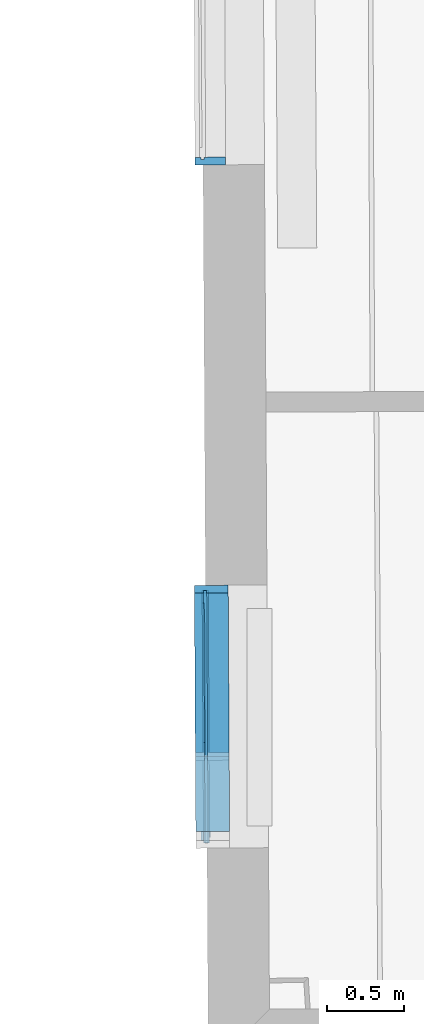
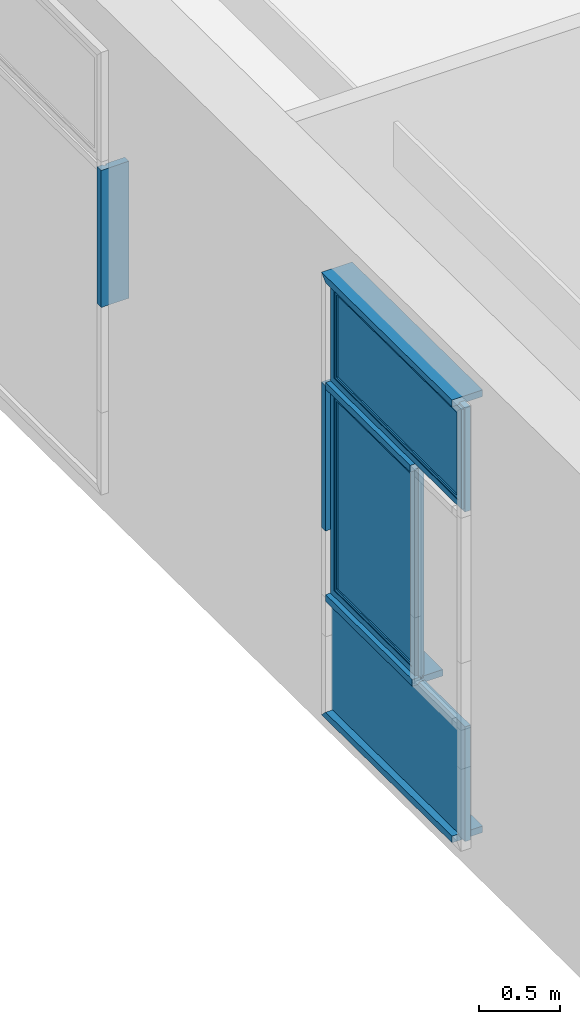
# One storey, part 119 of 196: 11 building element parts, 2 elements without a shape of their own.
"""IFC2X3 building model written with IfcOpenShell, lengths in metres."""

from ifc_helpers import new_model, entity, si_unit, converted_unit, derived_unit, money_unit, direction, frame, origin_with_axes, place, context, subcontext, project, spatial, faceted_brep, material, type_object, element, aggregate, save


model = new_model("IFC2X3")

# Units and contexts
model_context = context("Model", 3, precision=1e-05, world=origin_with_axes(), true_north=direction((0.0, 1.0)))
body_context = subcontext(model_context, "Body", "Model", "MODEL_VIEW")
ifc_project = project(units=[si_unit("LENGTHUNIT", "METRE"), si_unit("AREAUNIT", "SQUARE_METRE"), si_unit("VOLUMEUNIT", "CUBIC_METRE"), converted_unit("PLANEANGLEUNIT", "DEGREE", entity("IfcPlaneAngleMeasure", 0.0174532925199), si_unit("PLANEANGLEUNIT", "RADIAN"), dimensions=[0, 0, 0, 0, 0, 0, 0]), money_unit("EUR"), converted_unit("TIMEUNIT", "Year", entity("IfcTimeMeasure", 31556926.0), si_unit("TIMEUNIT", "SECOND"), dimensions=[0, 0, 1, 0, 0, 0, 0]), si_unit("MASSUNIT", "GRAM", prefix="KILO"), si_unit("THERMODYNAMICTEMPERATUREUNIT", "DEGREE_CELSIUS"), si_unit("LUMINOUSINTENSITYUNIT", "LUMEN"), si_unit("ENERGYUNIT", "JOULE", prefix="MEGA"), derived_unit("THERMALCONDUCTANCEUNIT", [(si_unit("POWERUNIT", "WATT"), 1), (si_unit("LENGTHUNIT", "METRE"), -1), (si_unit("THERMODYNAMICTEMPERATUREUNIT", "KELVIN"), -1)]), derived_unit("SPECIFICHEATCAPACITYUNIT", [(si_unit("ENERGYUNIT", "JOULE"), 1), (si_unit("MASSUNIT", "GRAM", prefix="KILO"), -1), (si_unit("THERMODYNAMICTEMPERATUREUNIT", "KELVIN"), -1)]), derived_unit("MASSDENSITYUNIT", [(si_unit("MASSUNIT", "GRAM", prefix="KILO"), 1), (si_unit("VOLUMEUNIT", "CUBIC_METRE"), -1)])], contexts=[model_context])

# Site, building, storey
site_placement = place(None, origin_with_axes())
site = spatial("IfcSite", under=ifc_project, at=site_placement, Name="Gelände", CompositionType="ELEMENT")
building_placement = place(site_placement, origin_with_axes())
building = spatial("IfcBuilding", under=site, at=building_placement, Name="Gebäude", CompositionType="ELEMENT")
storey_placement = place(building_placement, frame((0.0, 0.0, -3.0), z_axis=(0.0, 0.0, 1.0), x_axis=(1.0, 0.0, 0.0)))
storey = spatial("IfcBuildingStorey", under=building, at=storey_placement, Name="KELLERGESCHOSS", CompositionType="ELEMENT", Elevation=-3.0)

# Proxy, building element parts
building_element_proxy_type = type_object("IfcBuildingElementProxyType", Name="Fassadentyp", PredefinedType="NOTDEFINED")
proxy_1_placement = place(storey_placement, frame((-34.829315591, 32.8962799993, 0.42102562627), z_axis=(0.0, 0.0, 1.0), x_axis=(1.0, 0.0, 0.0)))
proxy_1 = element("IfcBuildingElementProxy", 1, at=proxy_1_placement, inside=storey, type_object=building_element_proxy_type, Name="Fassade-002")
ifc_material_1 = material(Name="53_Metall, Aluminium")
building_element_part_1_placement = place(proxy_1_placement, origin_with_axes())
building_element_part_1 = element("IfcBuildingElementPart", 2, at=building_element_part_1_placement, material=ifc_material_1, Name="53_Metall, Aluminium", context=body_context, shape_type="Brep", body=[
    faceted_brep([(-0.0360597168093, 1.05607044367, 2.54499998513), (-0.0268131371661, -0.555528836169, 2.54499998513), (-0.0318130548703, -0.555557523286, 2.54499998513), (-0.0410596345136, 1.05604175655, 2.54499998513), (-0.0358015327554, 1.01107118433, 2.58999998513), (-0.02707132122, -0.51052957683, 2.58999998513), (-0.0320712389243, -0.510558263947, 2.58999998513), (-0.0408014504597, 1.01104249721, 2.58999998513)], [[[0, 1, 2, 3]], [[0, 4, 5, 1]], [[1, 5, 6, 2]], [[3, 2, 6, 7]], [[4, 0, 3, 7]], [[5, 4, 7, 6]]]),
    faceted_brep([(-0.0268131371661, -0.555528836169, 2.54499998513), (-0.0268131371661, -0.555528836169, 3.29999992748), (-0.0318130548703, -0.555557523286, 3.29999992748), (-0.0318130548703, -0.555557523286, 2.54499998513), (-0.02707132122, -0.51052957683, 2.58999998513), (-0.02707132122, -0.51052957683, 3.25499992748), (-0.0320712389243, -0.510558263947, 3.25499992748), (-0.0320712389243, -0.510558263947, 2.58999998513)], [[[0, 1, 2, 3]], [[0, 4, 5, 1]], [[1, 5, 6, 2]], [[3, 2, 6, 7]], [[4, 0, 3, 7]], [[5, 4, 7, 6]]]),
    faceted_brep([(-0.0360597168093, 1.05607044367, 3.29999992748), (-0.0358015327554, 1.01107118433, 3.25499992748), (-0.0408014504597, 1.01104249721, 3.25499992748), (-0.0410596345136, 1.05604175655, 3.29999992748), (-0.0268131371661, -0.555528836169, 3.29999992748), (-0.02707132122, -0.51052957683, 3.25499992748), (-0.0320712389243, -0.510558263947, 3.25499992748), (-0.0318130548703, -0.555557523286, 3.29999992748)], [[[0, 1, 2, 3]], [[0, 4, 5, 1]], [[1, 5, 6, 2]], [[3, 2, 6, 7]], [[4, 0, 3, 7]], [[5, 4, 7, 6]]]),
    faceted_brep([(-0.0360597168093, 1.05607044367, 2.54499998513), (-0.0358015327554, 1.01107118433, 2.58999998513), (-0.0408014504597, 1.01104249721, 2.58999998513), (-0.0410596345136, 1.05604175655, 2.54499998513), (-0.0360597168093, 1.05607044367, 3.29999992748), (-0.0358015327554, 1.01107118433, 3.25499992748), (-0.0408014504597, 1.01104249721, 3.25499992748), (-0.0410596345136, 1.05604175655, 3.29999992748)], [[[0, 1, 2, 3]], [[0, 4, 5, 1]], [[1, 5, 6, 2]], [[3, 2, 6, 7]], [[4, 0, 3, 7]], [[5, 4, 7, 6]]]),
    faceted_brep([(0.0139394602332, 1.05635731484, 2.54499998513), (0.0231860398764, -0.555241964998, 2.54499998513), (-0.0268131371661, -0.555528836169, 2.54499998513), (-0.0360597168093, 1.05607044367, 2.54499998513), (0.0140542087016, 1.03635764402, 2.56499998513), (0.023071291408, -0.535242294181, 2.56499998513), (-0.0269278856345, -0.535529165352, 2.56499998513), (-0.0359449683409, 1.03607077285, 2.56499998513)], [[[0, 1, 2, 3]], [[0, 4, 5, 1]], [[1, 5, 6, 2]], [[3, 2, 6, 7]], [[4, 0, 3, 7]], [[5, 4, 7, 6]]]),
    faceted_brep([(0.0231860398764, -0.555241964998, 2.54499998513), (0.0231860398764, -0.555241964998, 3.29999992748), (-0.0268131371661, -0.555528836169, 3.29999992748), (-0.0268131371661, -0.555528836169, 2.54499998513), (0.023071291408, -0.535242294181, 2.56499998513), (0.023071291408, -0.535242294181, 3.27999992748), (-0.0269278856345, -0.535529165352, 3.27999992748), (-0.0269278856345, -0.535529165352, 2.56499998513)], [[[0, 1, 2, 3]], [[0, 4, 5, 1]], [[1, 5, 6, 2]], [[3, 2, 6, 7]], [[4, 0, 3, 7]], [[5, 4, 7, 6]]]),
    faceted_brep([(0.0139394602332, 1.05635731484, 3.29999992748), (0.0140542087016, 1.03635764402, 3.27999992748), (-0.0359449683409, 1.03607077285, 3.27999992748), (-0.0360597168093, 1.05607044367, 3.29999992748), (0.0231860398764, -0.555241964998, 3.29999992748), (0.023071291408, -0.535242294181, 3.27999992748), (-0.0269278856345, -0.535529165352, 3.27999992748), (-0.0268131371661, -0.555528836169, 3.29999992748)], [[[0, 1, 2, 3]], [[0, 4, 5, 1]], [[1, 5, 6, 2]], [[3, 2, 6, 7]], [[4, 0, 3, 7]], [[5, 4, 7, 6]]]),
    faceted_brep([(0.0139394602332, 1.05635731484, 2.54499998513), (0.0140542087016, 1.03635764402, 2.56499998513), (-0.0359449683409, 1.03607077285, 2.56499998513), (-0.0360597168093, 1.05607044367, 2.54499998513), (0.0139394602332, 1.05635731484, 3.29999992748), (0.0140542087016, 1.03635764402, 3.27999992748), (-0.0359449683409, 1.03607077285, 3.27999992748), (-0.0360597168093, 1.05607044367, 3.29999992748)], [[[0, 1, 2, 3]], [[0, 4, 5, 1]], [[1, 5, 6, 2]], [[3, 2, 6, 7]], [[4, 0, 3, 7]], [[5, 4, 7, 6]]]),
    faceted_brep([(0.0138533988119, 1.07135708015, 2.52999997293), (0.0232721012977, -0.570241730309, 2.52999997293), (-0.0167272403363, -0.570471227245, 2.52999997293), (-0.0261459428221, 1.07112758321, 2.52999997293), (0.0139394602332, 1.05635731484, 2.54499998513), (0.0231860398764, -0.555241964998, 2.54499998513), (-0.0168133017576, -0.555471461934, 2.54499998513), (-0.0260598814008, 1.0561278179, 2.54499998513)], [[[0, 1, 2, 3]], [[0, 4, 5, 1]], [[1, 5, 6, 2]], [[3, 2, 6, 7]], [[4, 0, 3, 7]], [[5, 4, 7, 6]]]),
    faceted_brep([(0.0232721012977, -0.570241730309, 2.52999997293), (0.0232721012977, -0.570241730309, 3.31499991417), (-0.0167272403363, -0.570471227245, 3.31499991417), (-0.0167272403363, -0.570471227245, 2.52999997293), (0.0231860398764, -0.555241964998, 2.54499998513), (0.0231860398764, -0.555241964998, 3.29999992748), (-0.0168133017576, -0.555471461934, 3.29999992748), (-0.0168133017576, -0.555471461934, 2.54499998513)], [[[0, 1, 2, 3]], [[0, 4, 5, 1]], [[1, 5, 6, 2]], [[3, 2, 6, 7]], [[4, 0, 3, 7]], [[5, 4, 7, 6]]]),
    faceted_brep([(0.0232721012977, -0.570241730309, 3.31499991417), (0.0138533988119, 1.07135708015, 3.31499991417), (-0.0261459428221, 1.07112758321, 3.31499991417), (-0.0167272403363, -0.570471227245, 3.31499991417), (0.0231860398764, -0.555241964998, 3.29999992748), (0.0139394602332, 1.05635731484, 3.29999992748), (-0.0260598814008, 1.0561278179, 3.29999992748), (-0.0168133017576, -0.555471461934, 3.29999992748)], [[[0, 1, 2, 3]], [[0, 4, 5, 1]], [[1, 5, 6, 2]], [[3, 2, 6, 7]], [[4, 0, 3, 7]], [[5, 4, 7, 6]]]),
    faceted_brep([(0.0138533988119, 1.07135708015, 3.31499991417), (0.0138533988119, 1.07135708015, 2.52999997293), (-0.0261459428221, 1.07112758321, 2.52999997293), (-0.0261459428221, 1.07112758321, 3.31499991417), (0.0139394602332, 1.05635731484, 3.29999992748), (0.0139394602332, 1.05635731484, 2.54499998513), (-0.0260598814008, 1.0561278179, 2.54499998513), (-0.0260598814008, 1.0561278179, 3.29999992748)], [[[0, 1, 2, 3]], [[0, 4, 5, 1]], [[1, 5, 6, 2]], [[3, 2, 6, 7]], [[4, 0, 3, 7]], [[5, 4, 7, 6]]]),
    faceted_brep([(-0.035686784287, 0.991071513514, 2.60999998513), (0.0193123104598, 0.991387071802, 2.60999998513), (0.0193123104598, 0.991387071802, 3.23499992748), (-0.035686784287, 0.991071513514, 3.23499992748), (-0.0359449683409, 1.03607077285, 2.56499998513), (0.0190541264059, 1.03638633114, 2.56499998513), (0.0190541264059, 1.03638633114, 3.27999992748), (-0.0359449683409, 1.03607077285, 3.27999992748)], [[[0, 1, 2, 3]], [[4, 5, 1, 0]], [[1, 5, 6, 2]], [[3, 2, 6, 7]], [[0, 3, 7, 4]], [[7, 6, 5, 4]]]),
    faceted_brep([(-0.0269278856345, -0.535529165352, 2.56499998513), (0.0280712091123, -0.535213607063, 2.56499998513), (0.0280712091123, -0.535213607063, 3.27999992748), (-0.0269278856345, -0.535529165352, 3.27999992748), (-0.0271860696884, -0.490529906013, 2.60999998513), (0.0278130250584, -0.490214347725, 2.60999998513), (0.0278130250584, -0.490214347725, 3.23499992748), (-0.0271860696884, -0.490529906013, 3.23499992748)], [[[0, 1, 2, 3]], [[4, 5, 1, 0]], [[1, 5, 6, 2]], [[3, 2, 6, 7]], [[0, 3, 7, 4]], [[7, 6, 5, 4]]]),
    faceted_brep([(-0.0269278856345, -0.535529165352, 2.56499998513), (0.0280712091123, -0.535213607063, 2.56499998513), (0.0278130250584, -0.490214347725, 2.60999998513), (-0.0271860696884, -0.490529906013, 2.60999998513), (-0.0359449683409, 1.03607077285, 2.56499998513), (0.0190541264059, 1.03638633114, 2.56499998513), (0.0193123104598, 0.991387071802, 2.60999998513), (-0.035686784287, 0.991071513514, 2.60999998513)], [[[0, 1, 2, 3]], [[4, 5, 1, 0]], [[1, 5, 6, 2]], [[3, 2, 6, 7]], [[0, 3, 7, 4]], [[7, 6, 5, 4]]]),
    faceted_brep([(-0.0359449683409, 1.03607077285, 3.27999992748), (0.0190541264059, 1.03638633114, 3.27999992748), (0.0193123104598, 0.991387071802, 3.23499992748), (-0.035686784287, 0.991071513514, 3.23499992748), (-0.0269278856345, -0.535529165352, 3.27999992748), (0.0280712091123, -0.535213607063, 3.27999992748), (0.0278130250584, -0.490214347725, 3.23499992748), (-0.0271860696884, -0.490529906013, 3.23499992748)], [[[0, 1, 2, 3]], [[4, 5, 1, 0]], [[1, 5, 6, 2]], [[3, 2, 6, 7]], [[0, 3, 7, 4]], [[7, 6, 5, 4]]]),
])
ifc_material_2 = material(Name="45_Glas, Normalglas")
building_element_part_2_placement = place(proxy_1_placement, origin_with_axes())
building_element_part_2 = element("IfcBuildingElementPart", 3, at=building_element_part_2_placement, material=ifc_material_2, Name="45_Glas, Normalglas", context=body_context, shape_type="Brep", body=[
    faceted_brep([(-0.0256869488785, 0.991128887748, 2.60999998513), (-0.00968721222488, 0.991220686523, 2.60999998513), (-0.0011864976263, -0.490380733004, 2.60999998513), (-0.0171862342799, -0.490472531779, 2.60999998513), (-0.0256869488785, 0.991128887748, 3.23499992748), (-0.00968721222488, 0.991220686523, 3.23499992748), (-0.0011864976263, -0.490380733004, 3.23499992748), (-0.0171862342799, -0.490472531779, 3.23499992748)], [[[0, 1, 2, 3]], [[4, 5, 1, 0]], [[1, 5, 6, 2]], [[3, 2, 6, 7]], [[0, 3, 7, 4]], [[7, 6, 5, 4]]]),
])
building_element_part_3_placement = place(proxy_1_placement, origin_with_axes())
building_element_part_3 = element("IfcBuildingElementPart", 4, at=building_element_part_3_placement, material=ifc_material_2, Name="45_Glas, Normalglas", context=body_context, shape_type="Brep", body=[
    faceted_brep([(0.0232721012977, -0.570241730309, 0.904643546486), (0.0228500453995, -0.496681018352, 0.904643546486), (-0.0171492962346, -0.496910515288, 0.904643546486), (-0.0167272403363, -0.570471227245, 0.904643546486), (0.0232721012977, -0.570241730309, 0.619999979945), (0.0232721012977, -0.570241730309, 0.0349999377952), (0.0228500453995, -0.496681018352, 0.0349999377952), (0.0138533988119, 1.07135708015, 0.0349999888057), (0.0138533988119, 1.07135708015, 0.619999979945), (0.0138533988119, 1.07135708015, 0.904643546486), (0.0200466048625, -0.00806545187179, 0.904643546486), (-0.0199527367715, -0.0082949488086, 0.904643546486), (-0.0261459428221, 1.07112758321, 0.904643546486), (-0.0261459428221, 1.07112758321, 0.619999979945), (-0.0261459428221, 1.07112758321, 0.0349999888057), (-0.0171492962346, -0.496910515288, 0.0349999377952), (-0.0167272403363, -0.570471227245, 0.0349999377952), (-0.0167272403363, -0.570471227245, 0.619999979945)], [[[0, 1, 2, 3]], [[0, 4, 5, 6, 7, 8, 9, 10, 1]], [[1, 10, 11, 2]], [[3, 2, 11, 12, 13, 14, 15, 16, 17]], [[4, 0, 3, 17]], [[5, 4, 17, 16]], [[6, 5, 16, 15]], [[7, 6, 15, 14]], [[8, 7, 14, 13]], [[9, 8, 13, 12]], [[10, 9, 12, 11]]]),
])
building_element_part_4_placement = place(proxy_1_placement, origin_with_axes())
building_element_part_4 = element("IfcBuildingElementPart", 5, at=building_element_part_4_placement, material=ifc_material_1, Name="53_Metall, Aluminium", context=body_context, shape_type="Brep", body=[
    faceted_brep([(-0.0360597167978, 1.05607044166, 0.939643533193), (-0.0300960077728, 0.0166472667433, 0.939643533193), (-0.035095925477, 0.0166185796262, 0.939643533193), (-0.0410596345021, 1.05604175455, 0.939643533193), (-0.0358015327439, 1.01107118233, 0.984643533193), (-0.0303541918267, 0.0616465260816, 0.984643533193), (-0.0353541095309, 0.0616178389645, 0.984643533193), (-0.0408014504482, 1.01104249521, 0.984643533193)], [[[0, 1, 2, 3]], [[0, 4, 5, 1]], [[1, 5, 6, 2]], [[3, 2, 6, 7]], [[4, 0, 3, 7]], [[5, 4, 7, 6]]]),
    faceted_brep([(-0.0300960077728, 0.0166472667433, 0.939643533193), (-0.0300960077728, 0.0166472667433, 2.49499998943), (-0.035095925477, 0.0166185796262, 2.49499998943), (-0.035095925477, 0.0166185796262, 0.939643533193), (-0.0303541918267, 0.0616465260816, 0.984643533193), (-0.0303541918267, 0.0616465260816, 2.44999998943), (-0.0353541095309, 0.0616178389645, 2.44999998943), (-0.0353541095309, 0.0616178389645, 0.984643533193)], [[[0, 1, 2, 3]], [[0, 4, 5, 1]], [[1, 5, 6, 2]], [[3, 2, 6, 7]], [[4, 0, 3, 7]], [[5, 4, 7, 6]]]),
    faceted_brep([(-0.0360597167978, 1.05607044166, 2.49499998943), (-0.0358015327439, 1.01107118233, 2.44999998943), (-0.0408014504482, 1.01104249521, 2.44999998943), (-0.0410596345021, 1.05604175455, 2.49499998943), (-0.0300960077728, 0.0166472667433, 2.49499998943), (-0.0303541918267, 0.0616465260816, 2.44999998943), (-0.0353541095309, 0.0616178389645, 2.44999998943), (-0.035095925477, 0.0166185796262, 2.49499998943)], [[[0, 1, 2, 3]], [[0, 4, 5, 1]], [[1, 5, 6, 2]], [[3, 2, 6, 7]], [[4, 0, 3, 7]], [[5, 4, 7, 6]]]),
    faceted_brep([(-0.0360597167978, 1.05607044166, 0.939643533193), (-0.0358015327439, 1.01107118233, 0.984643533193), (-0.0408014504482, 1.01104249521, 0.984643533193), (-0.0410596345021, 1.05604175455, 0.939643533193), (-0.0360597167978, 1.05607044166, 2.49499998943), (-0.0358015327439, 1.01107118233, 2.44999998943), (-0.0408014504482, 1.01104249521, 2.44999998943), (-0.0410596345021, 1.05604175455, 2.49499998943)], [[[0, 1, 2, 3]], [[0, 4, 5, 1]], [[1, 5, 6, 2]], [[3, 2, 6, 7]], [[4, 0, 3, 7]], [[5, 4, 7, 6]]]),
    faceted_brep([(0.0139394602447, 1.05635731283, 0.939643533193), (0.0199031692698, 0.0169341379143, 0.939643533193), (-0.0300960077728, 0.0166472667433, 0.939643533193), (-0.0360597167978, 1.05607044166, 0.939643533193), (0.0140542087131, 1.03635764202, 0.959643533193), (0.0197884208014, 0.0369338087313, 0.959643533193), (-0.0302107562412, 0.0366469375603, 0.959643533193), (-0.0359449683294, 1.03607077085, 0.959643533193)], [[[0, 1, 2, 3]], [[0, 4, 5, 1]], [[1, 5, 6, 2]], [[3, 2, 6, 7]], [[4, 0, 3, 7]], [[5, 4, 7, 6]]]),
    faceted_brep([(0.0199031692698, 0.0169341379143, 0.939643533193), (0.0199031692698, 0.0169341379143, 2.49499998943), (-0.0300960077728, 0.0166472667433, 2.49499998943), (-0.0300960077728, 0.0166472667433, 0.939643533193), (0.0197884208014, 0.0369338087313, 0.959643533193), (0.0197884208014, 0.0369338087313, 2.47499998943), (-0.0302107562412, 0.0366469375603, 2.47499998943), (-0.0302107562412, 0.0366469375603, 0.959643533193)], [[[0, 1, 2, 3]], [[0, 4, 5, 1]], [[1, 5, 6, 2]], [[3, 2, 6, 7]], [[4, 0, 3, 7]], [[5, 4, 7, 6]]]),
    faceted_brep([(0.0139394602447, 1.05635731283, 2.49499998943), (0.0140542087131, 1.03635764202, 2.47499998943), (-0.0359449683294, 1.03607077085, 2.47499998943), (-0.0360597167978, 1.05607044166, 2.49499998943), (0.0199031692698, 0.0169341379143, 2.49499998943), (0.0197884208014, 0.0369338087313, 2.47499998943), (-0.0302107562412, 0.0366469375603, 2.47499998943), (-0.0300960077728, 0.0166472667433, 2.49499998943)], [[[0, 1, 2, 3]], [[0, 4, 5, 1]], [[1, 5, 6, 2]], [[3, 2, 6, 7]], [[4, 0, 3, 7]], [[5, 4, 7, 6]]]),
    faceted_brep([(0.0139394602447, 1.05635731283, 0.939643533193), (0.0140542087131, 1.03635764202, 0.959643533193), (-0.0359449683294, 1.03607077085, 0.959643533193), (-0.0360597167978, 1.05607044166, 0.939643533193), (0.0139394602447, 1.05635731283, 2.49499998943), (0.0140542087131, 1.03635764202, 2.47499998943), (-0.0359449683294, 1.03607077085, 2.47499998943), (-0.0360597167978, 1.05607044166, 2.49499998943)], [[[0, 1, 2, 3]], [[0, 4, 5, 1]], [[1, 5, 6, 2]], [[3, 2, 6, 7]], [[4, 0, 3, 7]], [[5, 4, 7, 6]]]),
    faceted_brep([(0.0138533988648, 1.07135707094, 0.924643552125), (0.0199892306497, 0.0019343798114, 0.924643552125), (-0.0200101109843, 0.00170488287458, 0.924643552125), (-0.0261459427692, 1.071127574, 0.924643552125), (0.0139394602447, 1.05635731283, 0.939643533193), (0.0199031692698, 0.0169341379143, 0.939643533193), (-0.0200961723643, 0.0167046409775, 0.939643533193), (-0.0260598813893, 1.0561278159, 0.939643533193)], [[[0, 1, 2, 3]], [[0, 4, 5, 1]], [[1, 5, 6, 2]], [[3, 2, 6, 7]], [[4, 0, 3, 7]], [[5, 4, 7, 6]]]),
    faceted_brep([(0.0199892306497, 0.0019343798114, 0.924643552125), (0.0199892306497, 0.0019343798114, 2.5099999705), (-0.0200101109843, 0.00170488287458, 2.5099999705), (-0.0200101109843, 0.00170488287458, 0.924643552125), (0.0199031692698, 0.0169341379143, 0.939643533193), (0.0199031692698, 0.0169341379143, 2.49499998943), (-0.0200961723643, 0.0167046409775, 2.49499998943), (-0.0200961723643, 0.0167046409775, 0.939643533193)], [[[0, 1, 2, 3]], [[0, 4, 5, 1]], [[1, 5, 6, 2]], [[3, 2, 6, 7]], [[4, 0, 3, 7]], [[5, 4, 7, 6]]]),
    faceted_brep([(0.0199892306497, 0.0019343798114, 2.5099999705), (0.0138533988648, 1.07135707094, 2.5099999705), (-0.0261459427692, 1.071127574, 2.5099999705), (-0.0200101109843, 0.00170488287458, 2.5099999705), (0.0199031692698, 0.0169341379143, 2.49499998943), (0.0139394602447, 1.05635731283, 2.49499998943), (-0.0260598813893, 1.0561278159, 2.49499998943), (-0.0200961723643, 0.0167046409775, 2.49499998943)], [[[0, 1, 2, 3]], [[0, 4, 5, 1]], [[1, 5, 6, 2]], [[3, 2, 6, 7]], [[4, 0, 3, 7]], [[5, 4, 7, 6]]]),
    faceted_brep([(0.0138533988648, 1.07135707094, 2.5099999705), (0.0138533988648, 1.07135707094, 0.924643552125), (-0.0261459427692, 1.071127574, 0.924643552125), (-0.0261459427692, 1.071127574, 2.5099999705), (0.0139394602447, 1.05635731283, 2.49499998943), (0.0139394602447, 1.05635731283, 0.939643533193), (-0.0260598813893, 1.0561278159, 0.939643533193), (-0.0260598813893, 1.0561278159, 2.49499998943)], [[[0, 1, 2, 3]], [[0, 4, 5, 1]], [[1, 5, 6, 2]], [[3, 2, 6, 7]], [[4, 0, 3, 7]], [[5, 4, 7, 6]]]),
    faceted_brep([(-0.0356867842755, 0.991071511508, 1.00464353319), (0.0193123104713, 0.991387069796, 1.00464353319), (0.0193123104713, 0.991387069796, 2.42999998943), (-0.0356867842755, 0.991071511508, 2.42999998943), (-0.0359449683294, 1.03607077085, 0.959643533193), (0.0190541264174, 1.03638632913, 0.959643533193), (0.0190541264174, 1.03638632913, 2.47499998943), (-0.0359449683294, 1.03607077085, 2.47499998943)], [[[0, 1, 2, 3]], [[4, 5, 1, 0]], [[1, 5, 6, 2]], [[3, 2, 6, 7]], [[0, 3, 7, 4]], [[7, 6, 5, 4]]]),
    faceted_brep([(-0.0302107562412, 0.0366469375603, 0.959643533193), (0.0247883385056, 0.0369624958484, 0.959643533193), (0.0247883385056, 0.0369624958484, 2.47499998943), (-0.0302107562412, 0.0366469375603, 2.47499998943), (-0.0304689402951, 0.0816461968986, 1.00464353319), (0.0245301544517, 0.0819617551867, 1.00464353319), (0.0245301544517, 0.0819617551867, 2.42999998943), (-0.0304689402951, 0.0816461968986, 2.42999998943)], [[[0, 1, 2, 3]], [[4, 5, 1, 0]], [[1, 5, 6, 2]], [[3, 2, 6, 7]], [[0, 3, 7, 4]], [[7, 6, 5, 4]]]),
    faceted_brep([(-0.0302107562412, 0.0366469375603, 0.959643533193), (0.0247883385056, 0.0369624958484, 0.959643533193), (0.0245301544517, 0.0819617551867, 1.00464353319), (-0.0304689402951, 0.0816461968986, 1.00464353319), (-0.0359449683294, 1.03607077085, 0.959643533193), (0.0190541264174, 1.03638632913, 0.959643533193), (0.0193123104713, 0.991387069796, 1.00464353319), (-0.0356867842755, 0.991071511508, 1.00464353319)], [[[0, 1, 2, 3]], [[4, 5, 1, 0]], [[1, 5, 6, 2]], [[3, 2, 6, 7]], [[0, 3, 7, 4]], [[7, 6, 5, 4]]]),
    faceted_brep([(-0.0359449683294, 1.03607077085, 2.47499998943), (0.0190541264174, 1.03638632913, 2.47499998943), (0.0193123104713, 0.991387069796, 2.42999998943), (-0.0356867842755, 0.991071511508, 2.42999998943), (-0.0302107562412, 0.0366469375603, 2.47499998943), (0.0247883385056, 0.0369624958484, 2.47499998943), (0.0245301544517, 0.0819617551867, 2.42999998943), (-0.0304689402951, 0.0816461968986, 2.42999998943)], [[[0, 1, 2, 3]], [[4, 5, 1, 0]], [[1, 5, 6, 2]], [[3, 2, 6, 7]], [[0, 3, 7, 4]], [[7, 6, 5, 4]]]),
])
building_element_part_5_placement = place(proxy_1_placement, origin_with_axes())
building_element_part_5 = element("IfcBuildingElementPart", 6, at=building_element_part_5_placement, material=ifc_material_2, Name="45_Glas, Normalglas", context=body_context, shape_type="Brep", body=[
    faceted_brep([(-0.025686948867, 0.991128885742, 1.00464353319), (-0.00968721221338, 0.991220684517, 1.00464353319), (-0.00446936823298, 0.0817953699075, 1.00464353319), (-0.0204691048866, 0.0817035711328, 1.00464353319), (-0.025686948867, 0.991128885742, 2.42999998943), (-0.00968721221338, 0.991220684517, 2.42999998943), (-0.00446936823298, 0.0817953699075, 2.42999998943), (-0.0204691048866, 0.0817035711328, 2.42999998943)], [[[0, 1, 2, 3]], [[4, 5, 1, 0]], [[1, 5, 6, 2]], [[3, 2, 6, 7]], [[0, 3, 7, 4]], [[7, 6, 5, 4]]]),
])
building_element_part_6_placement = place(proxy_1_placement, origin_with_axes())
building_element_part_6 = element("IfcBuildingElementPart", 7, at=building_element_part_6_placement, material=ifc_material_1, Name="53_Metall, Aluminium", context=body_context, shape_type="Brep", body=[
    faceted_brep([(0.0128502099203, -0.496738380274, 3.31499991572), (0.0128502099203, -0.496738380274, 3.29999991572), (0.152847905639, -0.495935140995, 3.29999991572), (0.152847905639, -0.495935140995, 3.34999991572), (-0.0671484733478, -0.497197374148, 3.34999991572), (-0.0671484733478, -0.497197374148, 3.29999991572), (-0.00714946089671, -0.496853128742, 3.29999991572), (-0.00714946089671, -0.496853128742, 3.31499991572), (0.00385356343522, 1.07129970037, 3.31499991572), (0.00393962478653, 1.05629994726, 3.29999991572), (0.143937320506, 1.05710318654, 3.29999991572), (0.143650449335, 1.10710236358, 3.34999991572), (-0.0763459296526, 1.10584013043, 3.34999991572), (-0.0760590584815, 1.05584095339, 3.29999991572), (-0.0160600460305, 1.05618519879, 3.29999991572), (-0.0161461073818, 1.0711849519, 3.31499991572)], [[[0, 1, 2, 3, 4, 5, 6, 7]], [[0, 8, 9, 1]], [[9, 10, 2, 1]], [[2, 10, 11, 3]], [[3, 11, 12, 4]], [[4, 12, 13, 5]], [[6, 5, 13, 14]], [[14, 15, 7, 6]], [[7, 15, 8, 0]], [[8, 15, 14, 13, 12, 11, 10, 9]]]),
])
building_element_part_7_placement = place(proxy_1_placement, origin_with_axes())
building_element_part_7 = element("IfcBuildingElementPart", 8, at=building_element_part_7_placement, material=ifc_material_1, Name="53_Metall, Aluminium", context=body_context, shape_type="Brep", body=[
    faceted_brep([(0.00990333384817, 0.0168767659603, 2.5099999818), (0.00990333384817, 0.0168767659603, 2.4949999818), (0.149901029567, 0.0176800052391, 2.4949999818), (0.149901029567, 0.0176800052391, 2.5449999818), (0.00990333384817, 0.0168767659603, 2.5449999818), (0.00990333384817, 0.0168767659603, 2.5299999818), (-0.0100963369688, 0.0167620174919, 2.5299999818), (-0.0100963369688, 0.0167620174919, 2.5449999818), (-0.0700953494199, 0.0164177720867, 2.5449999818), (-0.0700953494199, 0.0164177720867, 2.4949999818), (-0.0100963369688, 0.0167620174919, 2.4949999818), (-0.0100963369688, 0.0167620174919, 2.5099999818), (0.00393962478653, 1.05629994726, 2.5099999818), (0.00393962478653, 1.05629994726, 2.4949999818), (0.143937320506, 1.05710318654, 2.4949999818), (0.143937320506, 1.05710318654, 2.5449999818), (0.00393962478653, 1.05629994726, 2.5449999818), (0.00393962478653, 1.05629994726, 2.5299999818), (-0.0160600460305, 1.05618519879, 2.5299999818), (-0.0160600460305, 1.05618519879, 2.5449999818), (-0.0760590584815, 1.05584095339, 2.5449999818), (-0.0760590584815, 1.05584095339, 2.4949999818), (-0.0160600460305, 1.05618519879, 2.4949999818), (-0.0160600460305, 1.05618519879, 2.5099999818)], [[[0, 1, 2, 3, 4, 5, 6, 7, 8, 9, 10, 11]], [[1, 0, 12, 13]], [[1, 13, 14, 2]], [[2, 14, 15, 3]], [[4, 3, 15, 16]], [[4, 16, 17, 5]], [[5, 17, 18, 6]], [[7, 6, 18, 19]], [[19, 20, 8, 7]], [[8, 20, 21, 9]], [[22, 10, 9, 21]], [[11, 10, 22, 23]], [[0, 11, 23, 12]], [[23, 22, 21, 20, 19, 18, 17, 16, 15, 14, 13, 12]]]),
])
building_element_part_8_placement = place(proxy_1_placement, origin_with_axes())
building_element_part_8 = element("IfcBuildingElementPart", 9, at=building_element_part_8_placement, material=ifc_material_1, Name="53_Metall, Aluminium", context=body_context, shape_type="Brep", body=[
    faceted_brep([(0.0100467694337, -0.00812282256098, 0.904643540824), (0.0100467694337, -0.00812282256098, 0.889643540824), (0.150044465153, -0.00731958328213, 0.889643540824), (0.150044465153, -0.00731958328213, 0.939643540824), (0.0100467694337, -0.00812282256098, 0.939643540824), (0.0100467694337, -0.00812282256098, 0.924643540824), (-0.00995290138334, -0.00823757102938, 0.924643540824), (-0.00995290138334, -0.00823757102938, 0.939643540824), (-0.0699519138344, -0.00858181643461, 0.939643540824), (-0.0699519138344, -0.00858181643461, 0.889643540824), (-0.00995290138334, -0.00823757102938, 0.889643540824), (-0.00995290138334, -0.00823757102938, 0.904643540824), (0.00393962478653, 1.05629994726, 0.904643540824), (0.00393962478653, 1.05629994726, 0.889643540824), (0.143937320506, 1.05710318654, 0.889643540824), (0.143937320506, 1.05710318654, 0.939643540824), (0.00393962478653, 1.05629994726, 0.939643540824), (0.00393962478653, 1.05629994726, 0.924643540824), (-0.0160600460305, 1.05618519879, 0.924643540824), (-0.0160600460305, 1.05618519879, 0.939643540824), (-0.0760590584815, 1.05584095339, 0.939643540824), (-0.0760590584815, 1.05584095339, 0.889643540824), (-0.0160600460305, 1.05618519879, 0.889643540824), (-0.0160600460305, 1.05618519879, 0.904643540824)], [[[0, 1, 2, 3, 4, 5, 6, 7, 8, 9, 10, 11]], [[1, 0, 12, 13]], [[1, 13, 14, 2]], [[2, 14, 15, 3]], [[4, 3, 15, 16]], [[4, 16, 17, 5]], [[5, 17, 18, 6]], [[7, 6, 18, 19]], [[19, 20, 8, 7]], [[8, 20, 21, 9]], [[22, 10, 9, 21]], [[11, 10, 22, 23]], [[0, 11, 23, 12]], [[23, 22, 21, 20, 19, 18, 17, 16, 15, 14, 13, 12]]]),
])
building_element_part_9_placement = place(proxy_1_placement, origin_with_axes())
building_element_part_9 = element("IfcBuildingElementPart", 10, at=building_element_part_9_placement, material=ifc_material_1, Name="53_Metall, Aluminium", context=body_context, shape_type="Brep", body=[
    faceted_brep([(0.00385356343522, 1.07129970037, 2.5199999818), (0.00393962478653, 1.05629994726, 2.5199999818), (0.143937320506, 1.05710318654, 2.5199999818), (0.143650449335, 1.10710236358, 2.5199999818), (-0.0763459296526, 1.10584013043, 2.5199999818), (-0.0760590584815, 1.05584095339, 2.5199999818), (-0.0160600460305, 1.05618519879, 2.5199999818), (-0.0161461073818, 1.0711849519, 2.5199999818), (0.00385356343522, 1.07129970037, 1.4199999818), (0.00393962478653, 1.05629994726, 1.4199999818), (0.143937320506, 1.05710318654, 1.4199999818), (0.143650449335, 1.10710236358, 1.4199999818), (-0.0763459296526, 1.10584013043, 1.4199999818), (-0.0760590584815, 1.05584095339, 1.4199999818), (-0.0160600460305, 1.05618519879, 1.4199999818), (-0.0161461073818, 1.0711849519, 1.4199999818)], [[[0, 1, 2, 3, 4, 5, 6, 7]], [[0, 8, 9, 1]], [[9, 10, 2, 1]], [[10, 11, 3, 2]], [[11, 12, 4, 3]], [[12, 13, 5, 4]], [[6, 5, 13, 14]], [[14, 15, 7, 6]], [[7, 15, 8, 0]], [[8, 15, 14, 13, 12, 11, 10, 9]]]),
])
building_element_part_10_placement = place(proxy_1_placement, origin_with_axes())
building_element_part_10 = element("IfcBuildingElementPart", 11, at=building_element_part_10_placement, material=ifc_material_1, Name="53_Metall, Aluminium", context=body_context, shape_type="Brep", body=[
    faceted_brep([(0.0128502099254, -0.496738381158, 0.035), (-0.00714946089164, -0.496853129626, 0.035), (-0.00714946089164, -0.496853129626, 0.05), (-0.0671484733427, -0.497197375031, 0.05), (-0.0671484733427, -0.497197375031, 0.0), (0.152847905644, -0.495935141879, 0.0), (0.152847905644, -0.495935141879, 0.05), (0.0128502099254, -0.496738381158, 0.05), (0.00385356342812, 1.07129970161, 0.035), (-0.0161461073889, 1.07118495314, 0.035), (-0.0160600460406, 1.05618520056, 0.05), (-0.0760590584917, 1.05584095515, 0.05), (-0.0763459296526, 1.10584013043, 0.0), (0.143650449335, 1.10710236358, 0.0), (0.143937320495, 1.05710318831, 0.05), (0.00393962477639, 1.05629994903, 0.05)], [[[0, 1, 2, 3, 4, 5, 6, 7]], [[1, 0, 8, 9]], [[10, 2, 1, 9]], [[2, 10, 11, 3]], [[4, 3, 11, 12]], [[5, 4, 12, 13]], [[6, 5, 13, 14]], [[15, 7, 6, 14]], [[0, 7, 15, 8]], [[8, 15, 14, 13, 12, 11, 10, 9]]]),
])
aggregate(proxy_1, [building_element_part_1, building_element_part_2, building_element_part_3, building_element_part_4, building_element_part_5, building_element_part_6, building_element_part_7, building_element_part_8, building_element_part_9, building_element_part_10])

# Proxy, building element part
proxy_2_placement = place(storey_placement, frame((-34.8766751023, 40.9954775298, 0.421025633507), z_axis=(0.0, 0.0, 1.0), x_axis=(1.0, 0.0, 0.0)))
proxy_2 = element("IfcBuildingElementProxy", 12, at=proxy_2_placement, inside=storey, type_object=building_element_proxy_type, Name="Fassade-002")
building_element_part_11_placement = place(proxy_2_placement, origin_with_axes())
building_element_part_11 = element("IfcBuildingElementPart", 13, at=building_element_part_11_placement, material=ifc_material_1, Name="53_Metall, Aluminium", context=body_context, shape_type="Brep", body=[
    faceted_brep([(0.0347523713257, -4.22045323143, 2.45764332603), (0.0147527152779, -4.22057052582, 2.45764332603), (0.0146647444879, -4.20557078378, 2.45764332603), (-0.0253345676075, -4.20580537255, 2.45764332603), (-0.0250413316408, -4.25580451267, 2.45764332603), (0.174955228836, -4.25463156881, 2.45764332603), (0.17466199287, -4.20463242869, 2.45764332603), (0.0346644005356, -4.20545348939, 2.45764332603), (0.0347523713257, -4.22045323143, 1.41999997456), (0.0147527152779, -4.22057052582, 1.41999997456), (0.0146647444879, -4.20557078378, 1.41999997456), (-0.0253345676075, -4.20580537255, 1.41999997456), (-0.0250413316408, -4.25580451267, 1.41999997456), (0.174955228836, -4.25463156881, 1.41999997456), (0.17466199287, -4.20463242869, 1.41999997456), (0.0346644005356, -4.20545348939, 1.41999997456)], [[[0, 1, 2, 3, 4, 5, 6, 7]], [[1, 0, 8, 9]], [[10, 2, 1, 9]], [[2, 10, 11, 3]], [[12, 4, 3, 11]], [[13, 5, 4, 12]], [[14, 6, 5, 13]], [[15, 7, 6, 14]], [[0, 7, 15, 8]], [[8, 15, 14, 13, 12, 11, 10, 9]]]),
])
aggregate(proxy_2, [building_element_part_11])

save(model, "model.ifc")
